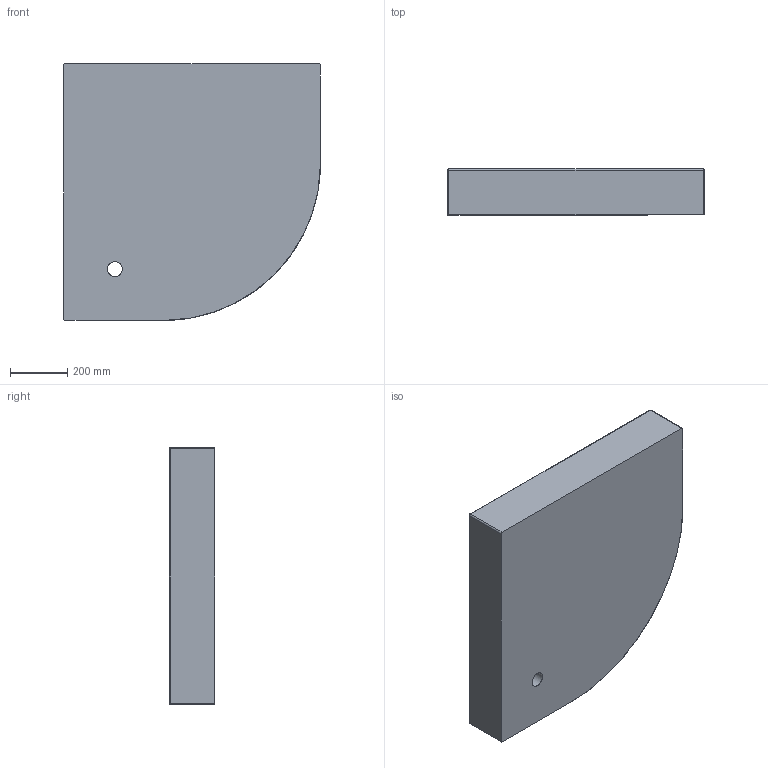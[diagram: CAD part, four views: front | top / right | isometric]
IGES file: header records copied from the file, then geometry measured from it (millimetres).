
Global section: file name: 5902539822526_igs; native system: Autodesk Inventor 2020; preprocessor: unknown; date: 20200727.153407; units: millimetre
Bounding box: 900 x 160 x 900 mm (x, y, z)
Surface area: 2092817.4 mm2 (no closed solid volume)
Topology: 0 solids, 0 shells, 47 faces, 273 edges, 309 vertices
Faces by surface type: revolution 30, bspline 17
